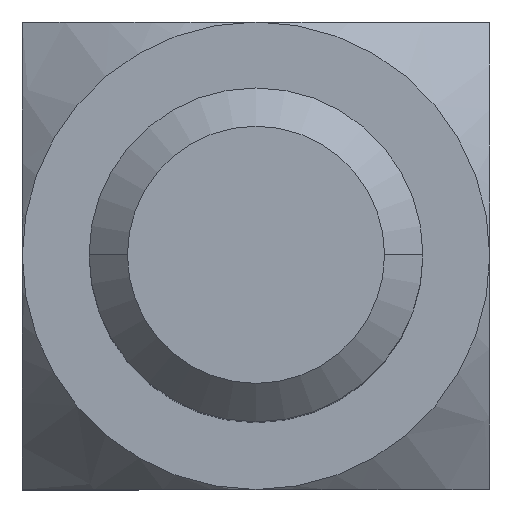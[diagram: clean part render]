
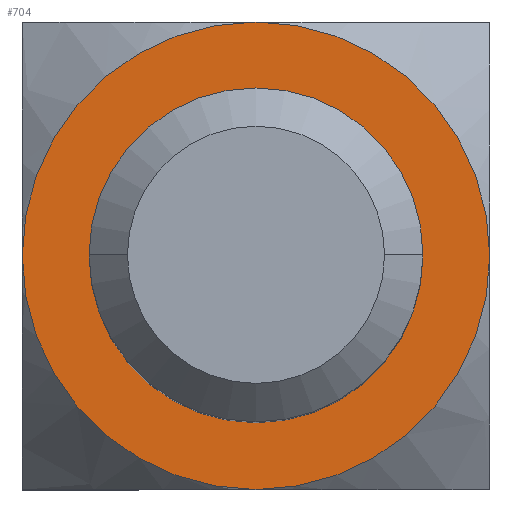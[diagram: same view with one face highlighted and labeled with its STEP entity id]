
A CAD part, top view. The second image highlights one B-rep face of the part: STEP entity #704.
In plain terms, the highlighted planar face has unit normal (0, 0, 1).
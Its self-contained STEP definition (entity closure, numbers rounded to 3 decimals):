
#62 = EDGE_CURVE ( 'NONE', #1832, #526, #130, .T. ) ;
#84 = DIRECTION ( 'NONE',  ( 0., 0., 1. ) ) ;
#89 = DIRECTION ( 'NONE',  ( -1., 0., 0. ) ) ;
#116 = CARTESIAN_POINT ( 'NONE',  ( 0., -3.5, 4. ) ) ;
#130 = CIRCLE ( 'NONE', #1704, 3.5 ) ;
#136 = CARTESIAN_POINT ( 'NONE',  ( 0., 0., 4. ) ) ;
#174 = DIRECTION ( 'NONE',  ( 0., 0., 1. ) ) ;
#215 = CARTESIAN_POINT ( 'NONE',  ( 0., 0., 4. ) ) ;
#284 = DIRECTION ( 'NONE',  ( 1., 0., 0. ) ) ;
#316 = CARTESIAN_POINT ( 'NONE',  ( 0., 0., 4. ) ) ;
#339 = DIRECTION ( 'NONE',  ( -1., 0., 0. ) ) ;
#426 = DIRECTION ( 'NONE',  ( 0., 0., 1. ) ) ;
#486 = AXIS2_PLACEMENT_3D ( 'NONE', #2589, #84, #1727 ) ;
#502 = DIRECTION ( 'NONE',  ( 0., 0., 1. ) ) ;
#526 = VERTEX_POINT ( 'NONE', #1041 ) ;
#536 = ORIENTED_EDGE ( 'NONE', *, *, #2421, .T. ) ;
#546 = CIRCLE ( 'NONE', #1651, 3.5 ) ;
#581 = VERTEX_POINT ( 'NONE', #975 ) ;
#657 = EDGE_CURVE ( 'NONE', #1681, #1598, #2138, .T. ) ;
#658 = DIRECTION ( 'NONE',  ( 1., 0., 0. ) ) ;
#673 = ORIENTED_EDGE ( 'NONE', *, *, #1748, .T. ) ;
#704 = ADVANCED_FACE ( 'NONE', ( #1197, #2062 ), #1534, .T. ) ;
#707 = DIRECTION ( 'NONE',  ( 0., 0., 1. ) ) ;
#746 = ORIENTED_EDGE ( 'NONE', *, *, #657, .F. ) ;
#765 = VERTEX_POINT ( 'NONE', #1950 ) ;
#902 = CARTESIAN_POINT ( 'NONE',  ( 0., 0., 4. ) ) ;
#975 = CARTESIAN_POINT ( 'NONE',  ( -3.5, 0., 4. ) ) ;
#1041 = CARTESIAN_POINT ( 'NONE',  ( 3.5, 0., 4. ) ) ;
#1095 = CIRCLE ( 'NONE', #1797, 2.5 ) ;
#1180 = EDGE_CURVE ( 'NONE', #765, #581, #1878, .T. ) ;
#1197 = FACE_OUTER_BOUND ( 'NONE', #1712, .T. ) ;
#1228 = AXIS2_PLACEMENT_3D ( 'NONE', #136, #174, #339 ) ;
#1265 = CARTESIAN_POINT ( 'NONE',  ( 2.5, 0., 4. ) ) ;
#1455 = ORIENTED_EDGE ( 'NONE', *, *, #1764, .F. ) ;
#1475 = ORIENTED_EDGE ( 'NONE', *, *, #62, .T. ) ;
#1534 = PLANE ( 'NONE',  #486 ) ;
#1561 = EDGE_LOOP ( 'NONE', ( #746, #1455 ) ) ;
#1598 = VERTEX_POINT ( 'NONE', #1915 ) ;
#1651 = AXIS2_PLACEMENT_3D ( 'NONE', #2371, #2548, #89 ) ;
#1681 = VERTEX_POINT ( 'NONE', #1265 ) ;
#1684 = CARTESIAN_POINT ( 'NONE',  ( 0., 0., 4. ) ) ;
#1704 = AXIS2_PLACEMENT_3D ( 'NONE', #1684, #1843, #2504 ) ;
#1712 = EDGE_LOOP ( 'NONE', ( #2337, #536, #1475, #673 ) ) ;
#1727 = DIRECTION ( 'NONE',  ( 1., 0., 0. ) ) ;
#1748 = EDGE_CURVE ( 'NONE', #526, #765, #1930, .T. ) ;
#1764 = EDGE_CURVE ( 'NONE', #1598, #1681, #1095, .T. ) ;
#1797 = AXIS2_PLACEMENT_3D ( 'NONE', #215, #426, #658 ) ;
#1832 = VERTEX_POINT ( 'NONE', #116 ) ;
#1843 = DIRECTION ( 'NONE',  ( 0., 0., 1. ) ) ;
#1878 = CIRCLE ( 'NONE', #2442, 3.5 ) ;
#1915 = CARTESIAN_POINT ( 'NONE',  ( -2.5, 0., 4. ) ) ;
#1930 = CIRCLE ( 'NONE', #1228, 3.5 ) ;
#1950 = CARTESIAN_POINT ( 'NONE',  ( 0., 3.5, 4. ) ) ;
#2062 = FACE_BOUND ( 'NONE', #1561, .T. ) ;
#2138 = CIRCLE ( 'NONE', #2373, 2.5 ) ;
#2254 = DIRECTION ( 'NONE',  ( -1., 0., 0. ) ) ;
#2337 = ORIENTED_EDGE ( 'NONE', *, *, #1180, .T. ) ;
#2371 = CARTESIAN_POINT ( 'NONE',  ( 0., 0., 4. ) ) ;
#2373 = AXIS2_PLACEMENT_3D ( 'NONE', #316, #502, #284 ) ;
#2421 = EDGE_CURVE ( 'NONE', #581, #1832, #546, .T. ) ;
#2442 = AXIS2_PLACEMENT_3D ( 'NONE', #902, #707, #2254 ) ;
#2504 = DIRECTION ( 'NONE',  ( -1., 0., 0. ) ) ;
#2548 = DIRECTION ( 'NONE',  ( 0., 0., 1. ) ) ;
#2589 = CARTESIAN_POINT ( 'NONE',  ( -3.5, -3.5, 4. ) ) ;
